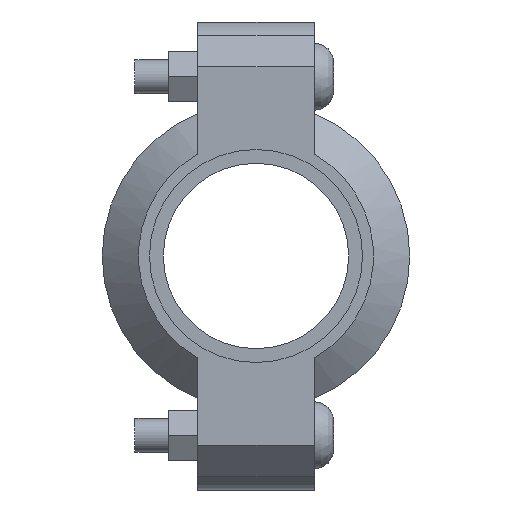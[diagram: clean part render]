
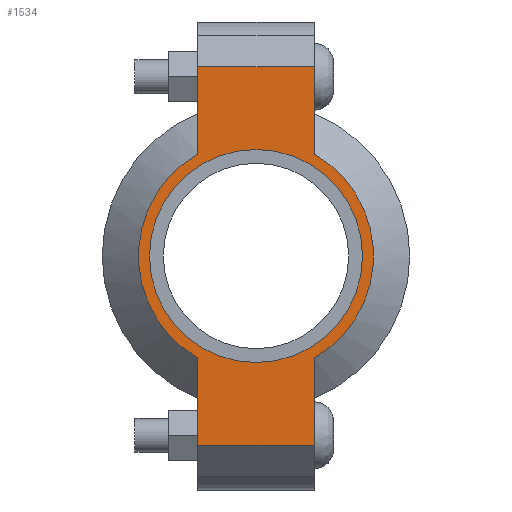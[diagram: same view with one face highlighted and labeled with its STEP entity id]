
A CAD part, left-side view. The second image highlights one B-rep face of the part: STEP entity #1534.
In plain terms, the highlighted planar face has unit normal (-1, 0, 0) as drawn and (0, 0, 1) by its records, which use the part's own axes.
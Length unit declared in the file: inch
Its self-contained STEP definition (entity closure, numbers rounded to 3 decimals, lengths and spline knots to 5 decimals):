
#158=LINE('',#2677,#251);
#166=LINE('',#2713,#259);
#173=LINE('',#2734,#266);
#182=LINE('',#2766,#275);
#183=LINE('',#2770,#276);
#184=LINE('',#2772,#277);
#251=VECTOR('',#2185,0.3937);
#259=VECTOR('',#2201,0.3937);
#266=VECTOR('',#2220,0.3937);
#275=VECTOR('',#2245,0.3937);
#276=VECTOR('',#2250,0.3937);
#277=VECTOR('',#2251,0.3937);
#333=FACE_BOUND('',#511,.T.);
#405=FACE_OUTER_BOUND('',#510,.T.);
#510=EDGE_LOOP('',(#1275,#1276,#1277,#1278,#1279,#1280,#1281,#1282));
#511=EDGE_LOOP('',(#1283));
#583=CIRCLE('',#1753,1.1875);
#609=CIRCLE('',#1812,1.31);
#610=CIRCLE('',#1813,1.31);
#675=VERTEX_POINT('',#2493);
#718=VERTEX_POINT('',#2674);
#719=VERTEX_POINT('',#2676);
#730=VERTEX_POINT('',#2708);
#731=VERTEX_POINT('',#2712);
#738=VERTEX_POINT('',#2731);
#739=VERTEX_POINT('',#2733);
#749=VERTEX_POINT('',#2769);
#750=VERTEX_POINT('',#2771);
#831=EDGE_CURVE('',#675,#675,#583,.T.);
#892=EDGE_CURVE('',#719,#718,#158,.T.);
#906=EDGE_CURVE('',#731,#730,#166,.T.);
#916=EDGE_CURVE('',#739,#738,#173,.T.);
#931=EDGE_CURVE('',#731,#718,#182,.T.);
#932=EDGE_CURVE('',#730,#739,#609,.T.);
#933=EDGE_CURVE('',#749,#738,#183,.T.);
#934=EDGE_CURVE('',#749,#750,#184,.T.);
#935=EDGE_CURVE('',#750,#719,#610,.T.);
#1275=ORIENTED_EDGE('',*,*,#931,.F.);
#1276=ORIENTED_EDGE('',*,*,#906,.T.);
#1277=ORIENTED_EDGE('',*,*,#932,.T.);
#1278=ORIENTED_EDGE('',*,*,#916,.T.);
#1279=ORIENTED_EDGE('',*,*,#933,.F.);
#1280=ORIENTED_EDGE('',*,*,#934,.T.);
#1281=ORIENTED_EDGE('',*,*,#935,.T.);
#1282=ORIENTED_EDGE('',*,*,#892,.T.);
#1283=ORIENTED_EDGE('',*,*,#831,.T.);
#1376=PLANE('',#1811);
#1534=ADVANCED_FACE('',(#405,#333),#1376,.T.);
#1753=AXIS2_PLACEMENT_3D('',#2495,#2061,#2062);
#1811=AXIS2_PLACEMENT_3D('',#2767,#2246,#2247);
#1812=AXIS2_PLACEMENT_3D('',#2768,#2248,#2249);
#1813=AXIS2_PLACEMENT_3D('',#2773,#2252,#2253);
#2061=DIRECTION('center_axis',(0.,0.,-1.));
#2062=DIRECTION('ref_axis',(-1.,0.,0.));
#2185=DIRECTION('',(-1.,0.,0.));
#2201=DIRECTION('',(1.,0.,0.));
#2220=DIRECTION('',(1.,0.,0.));
#2245=DIRECTION('',(0.,1.,0.));
#2246=DIRECTION('center_axis',(0.,0.,1.));
#2247=DIRECTION('ref_axis',(1.,0.,0.));
#2248=DIRECTION('center_axis',(0.,0.,1.));
#2249=DIRECTION('ref_axis',(-1.,0.,0.));
#2250=DIRECTION('',(0.,-1.,0.));
#2251=DIRECTION('',(-1.,0.,0.));
#2252=DIRECTION('center_axis',(0.,0.,1.));
#2253=DIRECTION('ref_axis',(-1.,0.,0.));
#2493=CARTESIAN_POINT('',(1.1875,0.,0.94));
#2495=CARTESIAN_POINT('Origin',(0.,0.,0.94));
#2674=CARTESIAN_POINT('',(-2.11,0.65,0.94));
#2676=CARTESIAN_POINT('',(-1.13737,0.65,0.94));
#2677=CARTESIAN_POINT('',(-2.61,0.65,0.94));
#2708=CARTESIAN_POINT('',(-1.13737,-0.65,0.94));
#2712=CARTESIAN_POINT('',(-2.11,-0.65,0.94));
#2713=CARTESIAN_POINT('',(2.61,-0.65,0.94));
#2731=CARTESIAN_POINT('',(2.11,-0.65,0.94));
#2733=CARTESIAN_POINT('',(1.13737,-0.65,0.94));
#2734=CARTESIAN_POINT('',(2.61,-0.65,0.94));
#2766=CARTESIAN_POINT('',(-2.11,0.325,0.94));
#2767=CARTESIAN_POINT('Origin',(0.,0.,0.94));
#2768=CARTESIAN_POINT('Origin',(0.,0.,0.94));
#2769=CARTESIAN_POINT('',(2.11,0.65,0.94));
#2770=CARTESIAN_POINT('',(2.11,-0.325,0.94));
#2771=CARTESIAN_POINT('',(1.13737,0.65,0.94));
#2772=CARTESIAN_POINT('',(-2.61,0.65,0.94));
#2773=CARTESIAN_POINT('Origin',(0.,0.,0.94));
